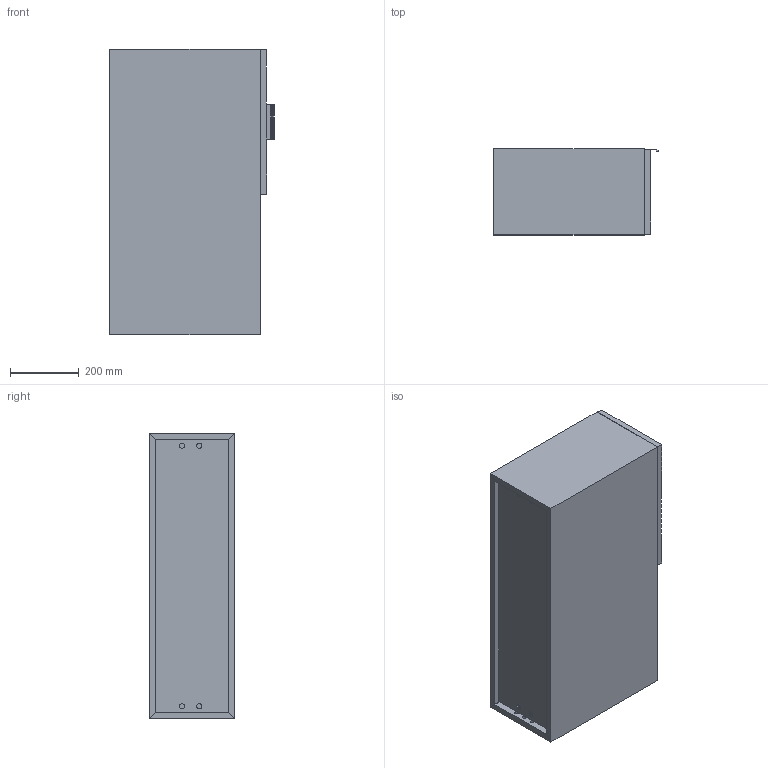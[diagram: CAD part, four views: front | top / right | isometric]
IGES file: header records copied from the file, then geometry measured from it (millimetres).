
Global section: file name: 3D Dosyası,; native system: Autodesk Inventor 2024; preprocessor: unknown; author: pc19; date: 20240713.095726; units: millimetre
Bounding box: 480.99 x 250 x 834 mm (x, y, z)
Volume: 29576897.8 mm3; surface area: 4798584.1 mm2
Topology: 24 solids, 24 shells, 632 faces, 1770 edges, 1200 vertices
Faces by surface type: bspline 632
